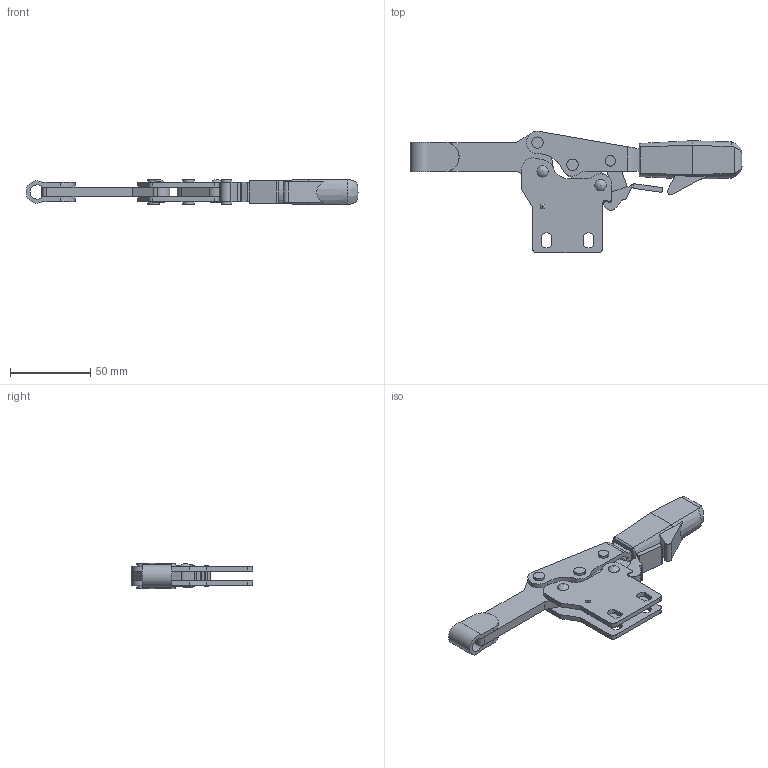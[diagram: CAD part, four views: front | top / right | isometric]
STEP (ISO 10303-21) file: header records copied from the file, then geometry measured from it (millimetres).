
FILE_DESCRIPTION( ( 'STEP AP203' ), '1' );
FILE_NAME( 'C:/Temp/Ganter_Step_05_03_2020/data/2_4/gn_820_4/gn_820_4_ni/Stainless Steel-Toggle clamp GN 820.4-230-PL-NI (closed).stp', '2020-03-13T05:53:53', ( 'License CC BY-ND 4.0' ), ( 'CADENAS' ), ' ', 'PARTsolutions', ' ' );
FILE_SCHEMA( ( 'CONFIG_CONTROL_DESIGN' ) );
Length unit declared in the file: millimetre
Products named in the file (6): Stainless Steel-Toggle clamp GN 820.4-230-PL-NI (closed); _Toggle clamp GN 820.4-230-PL-NI-1; _Toggle clamp GN 820.4-230-PL-NI (1)-2; _Toggle clamp GN 820.4-230-PL-NI (1)-3; _Toggle clamp GN 820.4-230-PL-NI (1)-4; _Toggle clamp GN 820.4-230-PL-NI-5
Assembly tree (5 placements, depth 2):
  Stainless Steel-Toggle clamp GN 820.4-230-PL-NI (closed)
    _Toggle clamp GN 820.4-230-PL-NI-1
    _Toggle clamp GN 820.4-230-PL-NI (1)-2
    _Toggle clamp GN 820.4-230-PL-NI (1)-3
    _Toggle clamp GN 820.4-230-PL-NI (1)-4
    _Toggle clamp GN 820.4-230-PL-NI-5
Bounding box: 206.44 x 75.47 x 16 mm (x, y, z)
Volume: 61128.2 mm3; surface area: 32197.4 mm2
Topology: 5 solids, 5 shells, 210 faces, 559 edges, 371 vertices
Faces by surface type: plane 109, cylinder 87, bspline 6, torus 4, cone 4
Full cylindrical faces by diameter (mm): 1.4 x1, 4.4 x4, 6.5 x5, 7 x10
Entity records: 6836 total; most frequent: CARTESIAN_POINT 1398, DIRECTION 1119, ORIENTED_EDGE 1040, EDGE_CURVE 520, AXIS2_PLACEMENT_3D 413, VERTEX_POINT 360, LINE 293, VECTOR 293
